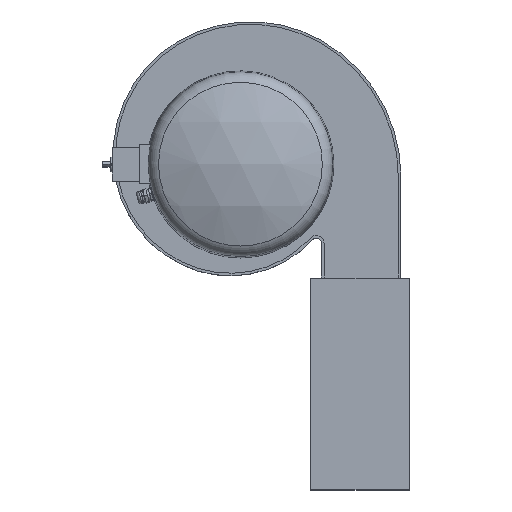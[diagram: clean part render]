
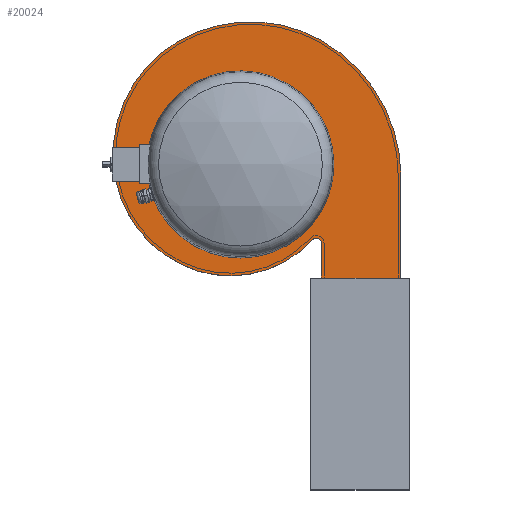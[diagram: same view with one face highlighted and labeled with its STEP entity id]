
A CAD part, top view. The second image highlights one B-rep face of the part: STEP entity #20024.
In plain terms, the highlighted planar face has unit normal (0, 0, 1).
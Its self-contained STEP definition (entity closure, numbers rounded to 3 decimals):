
#580=PLANE('',#20989);
#818=CIRCLE('',#20299,180.);
#980=CIRCLE('',#20990,302.683);
#981=CIRCLE('',#20991,275.812);
#982=CIRCLE('',#20992,253.209);
#983=CIRCLE('',#20993,233.749);
#984=CIRCLE('',#20994,215.217);
#985=CIRCLE('',#20995,10.);
#1191=FACE_BOUND('',#4161,.T.);
#2935=FACE_OUTER_BOUND('',#4160,.T.);
#4160=EDGE_LOOP('',(#18272,#18273,#18274,#18275,#18276,#18277,#18278,#18279,
#18280));
#4161=EDGE_LOOP('',(#18281));
#4655=LINE('',#36908,#6258);
#5794=LINE('',#40939,#7397);
#5795=LINE('',#40952,#7398);
#6258=VECTOR('',#21933,10.);
#7397=VECTOR('',#24482,10.);
#7398=VECTOR('',#24495,10.);
#9052=VERTEX_POINT('',#36905);
#9053=VERTEX_POINT('',#36907);
#9290=VERTEX_POINT('',#37408);
#10016=VERTEX_POINT('',#40938);
#10017=VERTEX_POINT('',#40940);
#10018=VERTEX_POINT('',#40942);
#10019=VERTEX_POINT('',#40944);
#10020=VERTEX_POINT('',#40946);
#10021=VERTEX_POINT('',#40948);
#10022=VERTEX_POINT('',#40950);
#11348=EDGE_CURVE('',#9053,#9052,#4655,.T.);
#11599=EDGE_CURVE('',#9290,#9290,#818,.T.);
#12785=EDGE_CURVE('',#10016,#9052,#5794,.T.);
#12786=EDGE_CURVE('',#10017,#10016,#980,.T.);
#12787=EDGE_CURVE('',#10018,#10017,#981,.T.);
#12788=EDGE_CURVE('',#10019,#10018,#982,.T.);
#12789=EDGE_CURVE('',#10020,#10019,#983,.T.);
#12790=EDGE_CURVE('',#10021,#10020,#984,.T.);
#12791=EDGE_CURVE('',#10022,#10021,#985,.T.);
#12792=EDGE_CURVE('',#9053,#10022,#5795,.T.);
#18272=ORIENTED_EDGE('',*,*,#11348,.T.);
#18273=ORIENTED_EDGE('',*,*,#12785,.F.);
#18274=ORIENTED_EDGE('',*,*,#12786,.F.);
#18275=ORIENTED_EDGE('',*,*,#12787,.F.);
#18276=ORIENTED_EDGE('',*,*,#12788,.F.);
#18277=ORIENTED_EDGE('',*,*,#12789,.F.);
#18278=ORIENTED_EDGE('',*,*,#12790,.F.);
#18279=ORIENTED_EDGE('',*,*,#12791,.F.);
#18280=ORIENTED_EDGE('',*,*,#12792,.F.);
#18281=ORIENTED_EDGE('',*,*,#11599,.T.);
#20024=ADVANCED_FACE('',(#2935,#1191),#580,.F.);
#20299=AXIS2_PLACEMENT_3D('',#37409,#22211,#22212);
#20989=AXIS2_PLACEMENT_3D('',#40937,#24480,#24481);
#20990=AXIS2_PLACEMENT_3D('',#40941,#24483,#24484);
#20991=AXIS2_PLACEMENT_3D('',#40943,#24485,#24486);
#20992=AXIS2_PLACEMENT_3D('',#40945,#24487,#24488);
#20993=AXIS2_PLACEMENT_3D('',#40947,#24489,#24490);
#20994=AXIS2_PLACEMENT_3D('',#40949,#24491,#24492);
#20995=AXIS2_PLACEMENT_3D('',#40951,#24493,#24494);
#21933=DIRECTION('',(1.,0.,0.));
#22211=DIRECTION('center_axis',(0.,0.,-1.));
#22212=DIRECTION('ref_axis',(1.,0.,0.));
#24480=DIRECTION('center_axis',(0.,0.,-1.));
#24481=DIRECTION('ref_axis',(-1.,0.,0.));
#24482=DIRECTION('',(0.,-1.,0.));
#24483=DIRECTION('center_axis',(0.,0.,-1.));
#24484=DIRECTION('ref_axis',(1.,0.,0.));
#24485=DIRECTION('center_axis',(0.,0.,-1.));
#24486=DIRECTION('ref_axis',(0.495,0.869,0.));
#24487=DIRECTION('center_axis',(0.,0.,-1.));
#24488=DIRECTION('ref_axis',(-0.513,0.859,0.));
#24489=DIRECTION('center_axis',(0.,0.,-1.));
#24490=DIRECTION('ref_axis',(-0.999,-0.043,0.));
#24491=DIRECTION('center_axis',(0.,0.,-1.));
#24492=DIRECTION('ref_axis',(-0.439,-0.898,0.));
#24493=DIRECTION('center_axis',(0.,0.,1.));
#24494=DIRECTION('ref_axis',(-1.,0.,0.));
#24495=DIRECTION('',(0.,1.,0.));
#36905=CARTESIAN_POINT('',(309.,-218.5,2.));
#36907=CARTESIAN_POINT('',(156.,-218.5,2.));
#36908=CARTESIAN_POINT('',(180.616,-218.5,2.));
#37408=CARTESIAN_POINT('',(-180.,0.,2.));
#37409=CARTESIAN_POINT('Origin',(0.,0.,
2.));
#40937=CARTESIAN_POINT('Origin',(-95.5,165.411,2.));
#40938=CARTESIAN_POINT('',(309.,-24.345,2.));
#40939=CARTESIAN_POINT('',(309.,-220.,2.));
#40940=CARTESIAN_POINT('',(156.,238.737,2.));
#40941=CARTESIAN_POINT('Origin',(6.317,-24.345,2.));
#40942=CARTESIAN_POINT('',(-121.76,235.84,2.));
#40943=CARTESIAN_POINT('Origin',(19.605,-0.99,2.));
#40944=CARTESIAN_POINT('',(-244.956,7.563,2.));
#40945=CARTESIAN_POINT('Origin',(8.02,18.419,2.));
#40946=CARTESIAN_POINT('',(-114.085,-192.413,2.));
#40947=CARTESIAN_POINT('Origin',(-11.422,17.585,2.));
#40948=CARTESIAN_POINT('',(138.649,-144.969,2.));
#40949=CARTESIAN_POINT('Origin',(-19.561,0.935,2.));
#40950=CARTESIAN_POINT('',(156.,-151.748,2.));
#40951=CARTESIAN_POINT('Origin',(146.,-151.748,2.));
#40952=CARTESIAN_POINT('',(156.,-151.748,2.));
